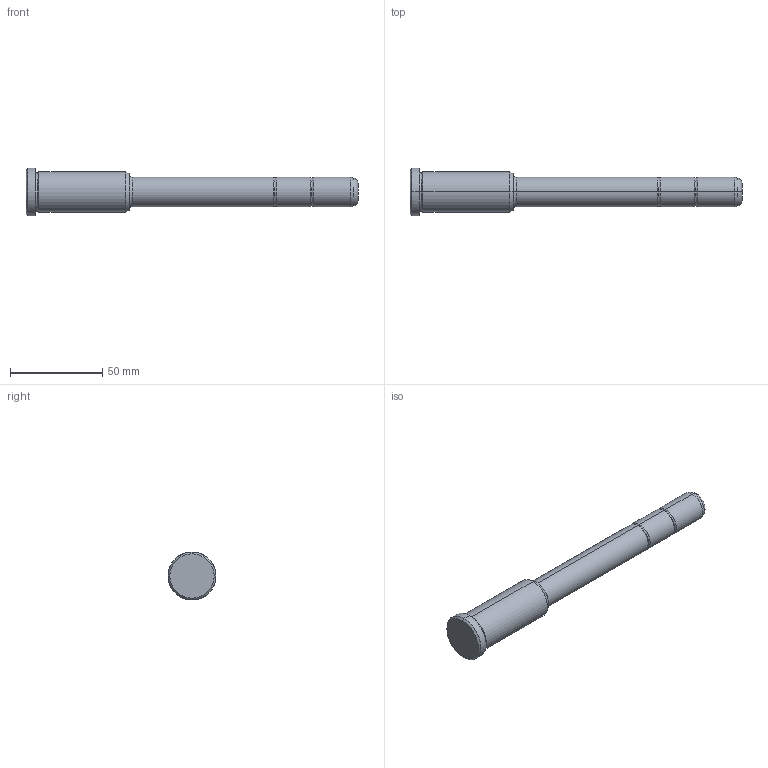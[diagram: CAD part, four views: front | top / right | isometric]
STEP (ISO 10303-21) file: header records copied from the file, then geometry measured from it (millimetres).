
FILE_DESCRIPTION(('CATIA V5 STEP Exchange'),'2;1');
FILE_NAME('C:\Users\Utente\Desktop\IO LAVORO\3D X SITO CF\X SITO\PLASTICA\351\351-16X56X180.stp','2021-08-18T11:48:23+00:00',('none'),('none'),'CATIA Version 5 Release 20 GA (IN-10)','CATIA V5 STEP AP203','none');
FILE_SCHEMA(('CONFIG_CONTROL_DESIGN'));
Length unit declared in the file: millimetre
Products named in the file (1): 351-16X56X180
Bounding box: 180 x 26 x 26 mm (x, y, z)
Volume: 46633.7 mm3; surface area: 11049.4 mm2
Topology: 1 solids, 1 shells, 36 faces, 102 edges, 70 vertices
Faces by surface type: torus 16, cylinder 10, cone 6, plane 4
Entity records: 1292 total; most frequent: CARTESIAN_POINT 321, ORIENTED_EDGE 204, DIRECTION 166, AXIS2_PLACEMENT_3D 115, EDGE_CURVE 102, CIRCLE 78, VERTEX_POINT 70, EDGE_LOOP 38
